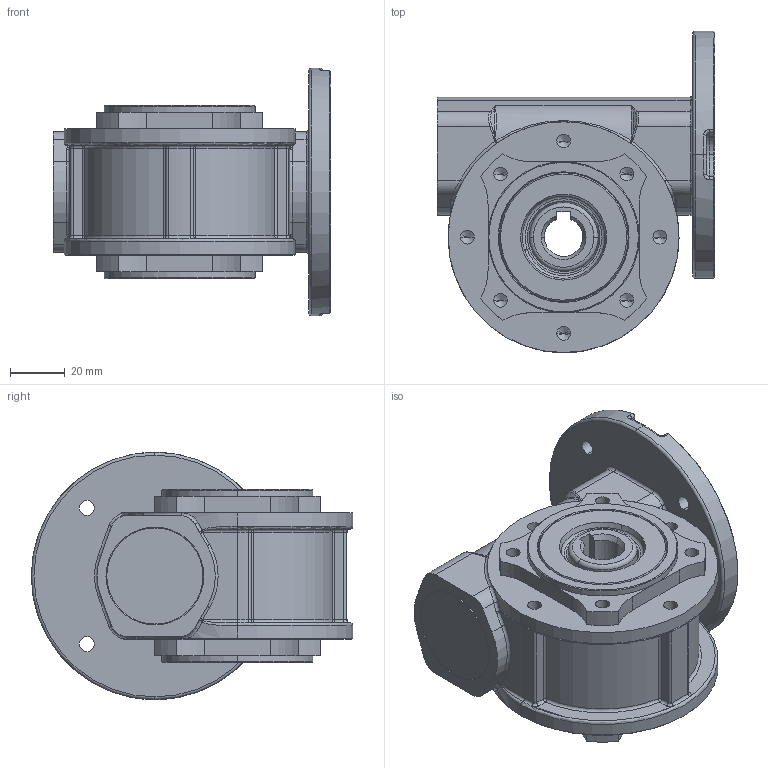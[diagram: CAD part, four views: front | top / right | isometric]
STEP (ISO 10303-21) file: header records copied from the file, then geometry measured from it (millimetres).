
FILE_DESCRIPTION (( 'STEP AP214' ), '1' );
FILE_NAME ('Sestava MRT30A-FT.STEP', '2007-06-25T11:03:25', ( '' ), ( '' ), 'SwSTEP 2.0', 'SolidWorks 2004146', '' );
FILE_SCHEMA (( 'AUTOMOTIVE_DESIGN' ));
Length unit declared in the file: millimetre
Products named in the file (13): Snekove ozubeni 002PILIB; skrin_30_63_Výchozí; CSN 024630_SKF 6005_Ložisko SKF 6005 ÈSN 024630; naboj_Výchozí; DIN 5405 - K20X26X17 - 18,SI,AC,18; Snekove ozubeni 002LAM5B; CSN 022931_47_Kroužek 47 ÈSN 022931; DIN 3760-NB_A 25x47x7_Tìsnìní A 25x47x7 DIN 3760-NB; CSN 022931_35_Kroužek 35 ÈSN 022931; vicko nbr 35_Výchozí; CSN 024630_SKF 6300_Ložisko SKF 6300 ÈSN 024630; DIN 3760-NB_AS 20x30x7_Tìsnìní AS 20x30x7 DIN 3760-NB; Sestava MRT30A-FT
Assembly tree (15 placements, depth 2):
  Sestava MRT30A-FT
    CSN 022931_47_Kroužek 47 ÈSN 022931  x2
    CSN 024630_SKF 6300_Ložisko SKF 6300 ÈSN 024630
    naboj_Výchozí
    DIN 5405 - K20X26X17 - 18,SI,AC,18
    DIN 3760-NB_A 25x47x7_Tìsnìní A 25x47x7 DIN 3760-NB  x2
    Snekove ozubeni 002LAM5B
    vicko nbr 35_Výchozí
    skrin_30_63_Výchozí
    CSN 024630_SKF 6005_Ložisko SKF 6005 ÈSN 024630  x2
    DIN 3760-NB_AS 20x30x7_Tìsnìní AS 20x30x7 DIN 3760-NB
    CSN 022931_35_Kroužek 35 ÈSN 022931
    Snekove ozubeni 002PILIB
Bounding box: 101 x 117 x 90 mm (x, y, z)
Volume: 288343.9 mm3; surface area: 134184.3 mm2
Topology: 15 solids, 15 shells, 1269 faces, 3526 edges, 2196 vertices
Faces by surface type: cylinder 437, torus 247, cone 246, plane 208, bspline 67, sphere 64
Entity records: 65480 total; most frequent: CARTESIAN_POINT 37297, ORIENTED_EDGE 5958, DIRECTION 5437, EDGE_CURVE 2979, AXIS2_PLACEMENT_3D 2432, VERTEX_POINT 1877, CIRCLE 1338, EDGE_LOOP 1228
